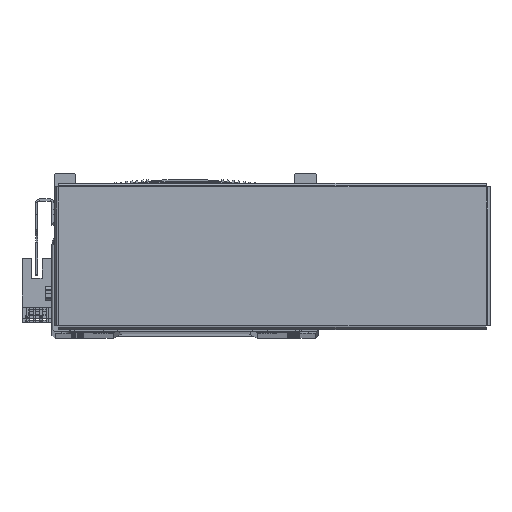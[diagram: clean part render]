
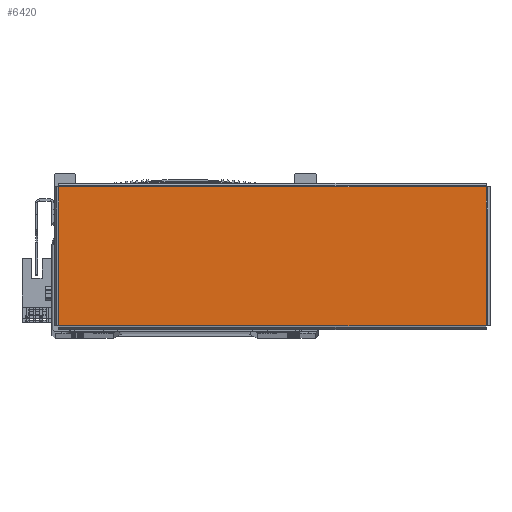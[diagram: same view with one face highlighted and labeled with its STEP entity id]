
A CAD part, top view. The second image highlights one B-rep face of the part: STEP entity #6420.
In plain terms, the highlighted planar face has unit normal (0, 0, 1) as drawn and (0, 0, -1) by its records, which use the part's own axes.
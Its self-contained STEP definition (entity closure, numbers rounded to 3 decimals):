
#5432 = EDGE_CURVE ( 'NONE', #13281, #13270, #88431, .T. ) ;
#5443 = EDGE_CURVE ( 'NONE', #13270, #13207, #88429, .T. ) ;
#5522 = EDGE_CURVE ( 'NONE', #13207, #13267, #88534, .T. ) ;
#5526 = EDGE_CURVE ( 'NONE', #13267, #13281, #88541, .T. ) ;
#6420 = ADVANCED_FACE ( 'NONE', ( #77983 ), #76509, .F. ) ;
#13207 = VERTEX_POINT ( 'NONE', #60141 ) ;
#13267 = VERTEX_POINT ( 'NONE', #51613 ) ;
#13270 = VERTEX_POINT ( 'NONE', #51632 ) ;
#13281 = VERTEX_POINT ( 'NONE', #51570 ) ;
#22529 = AXIS2_PLACEMENT_3D ( 'NONE', #76592, #76513, #76556 ) ;
#24011 = ORIENTED_EDGE ( 'NONE', *, *, #5432, .T. ) ;
#24014 = ORIENTED_EDGE ( 'NONE', *, *, #5526, .T. ) ;
#24026 = ORIENTED_EDGE ( 'NONE', *, *, #5443, .T. ) ;
#24091 = ORIENTED_EDGE ( 'NONE', *, *, #5522, .T. ) ;
#51570 = CARTESIAN_POINT ( 'NONE',  ( -97.863, -31.763, -1. ) ) ;
#51613 = CARTESIAN_POINT ( 'NONE',  ( 97.863, -31.763, -1. ) ) ;
#51632 = CARTESIAN_POINT ( 'NONE',  ( -97.863, 31.763, -1. ) ) ;
#60141 = CARTESIAN_POINT ( 'NONE',  ( 97.863, 31.763, -1. ) ) ;
#69496 = EDGE_LOOP ( 'NONE', ( #24091, #24014, #24011, #24026 ) ) ;
#76509 = PLANE ( 'NONE',  #22529 ) ;
#76513 = DIRECTION ( 'NONE',  ( 0., 0., 1. ) ) ;
#76556 = DIRECTION ( 'NONE',  ( 1., 0., 0. ) ) ;
#76592 = CARTESIAN_POINT ( 'NONE',  ( 0., 0., -1. ) ) ;
#77983 = FACE_OUTER_BOUND ( 'NONE', #69496, .T. ) ;
#87956 = CARTESIAN_POINT ( 'NONE',  ( -97.863, -31.793, -1. ) ) ;
#87988 = DIRECTION ( 'NONE',  ( 0., 1., 0. ) ) ;
#88015 = DIRECTION ( 'NONE',  ( 1., 0., 0. ) ) ;
#88022 = CARTESIAN_POINT ( 'NONE',  ( -97.893, 31.763, -1. ) ) ;
#88249 = DIRECTION ( 'NONE',  ( 0., -1., 0. ) ) ;
#88251 = CARTESIAN_POINT ( 'NONE',  ( 97.893, -31.763, -1. ) ) ;
#88258 = DIRECTION ( 'NONE',  ( -1., 0., 0. ) ) ;
#88270 = CARTESIAN_POINT ( 'NONE',  ( 97.863, 31.793, -1. ) ) ;
#88405 = VECTOR ( 'NONE', #88015, 1000. ) ;
#88429 = LINE ( 'NONE', #88022, #88405 ) ;
#88431 = LINE ( 'NONE', #87956, #88432 ) ;
#88432 = VECTOR ( 'NONE', #87988, 1000. ) ;
#88507 = VECTOR ( 'NONE', #88249, 1000. ) ;
#88508 = VECTOR ( 'NONE', #88258, 1000. ) ;
#88534 = LINE ( 'NONE', #88270, #88507 ) ;
#88541 = LINE ( 'NONE', #88251, #88508 ) ;
